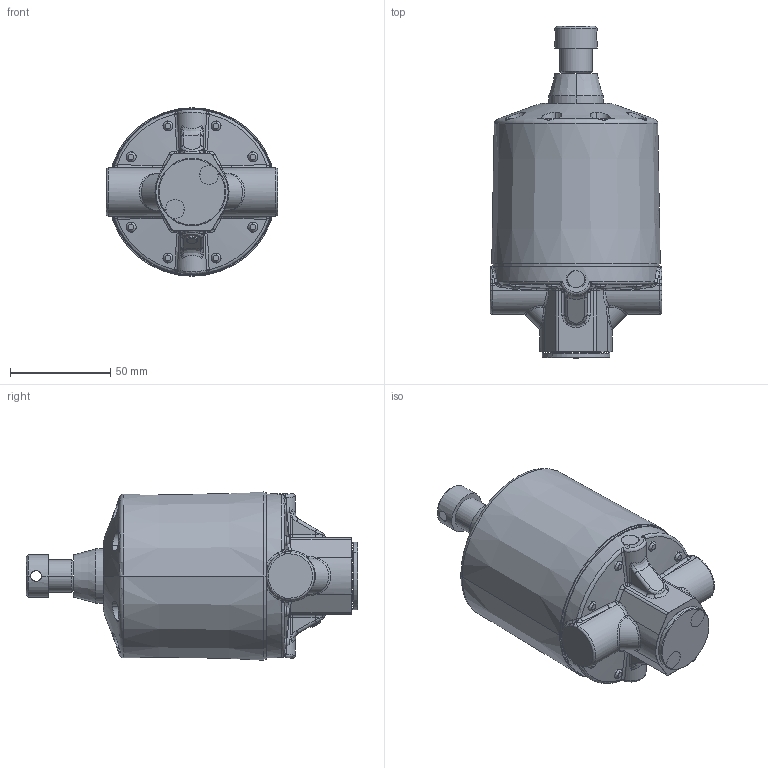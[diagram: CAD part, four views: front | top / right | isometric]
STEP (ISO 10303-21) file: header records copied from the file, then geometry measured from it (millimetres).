
FILE_DESCRIPTION((''),'2;1');
FILE_NAME('234267-EN-F_PRT','2019-12-31T16:07:30',('qusrh3'),(''),'CREO PARAMETRIC BY PTC INC, 2019030','CREO PARAMETRIC BY PTC INC, 2019030','');
FILE_SCHEMA(('CONFIG_CONTROL_DESIGN'));
Length unit declared in the file: inch
Products named in the file (1): 234267-EN-F_PRT
Bounding box: 85.3 x 165.3 x 83.91 mm (x, y, z)
Surface area: 71912.4 mm2 (no closed solid volume)
Topology: 0 solids, 28 shells, 363 faces, 817 edges, 480 vertices
Faces by surface type: cylinder 110, bspline 96, plane 59, cone 56, sphere 20, torus 18, extrusion 4
Entity records: 14158 total; most frequent: CARTESIAN_POINT 6764, ORIENTED_EDGE 1566, DIRECTION 1457, EDGE_CURVE 817, AXIS2_PLACEMENT_3D 625, VERTEX_POINT 480, EDGE_LOOP 363, FACE_OUTER_BOUND 363
